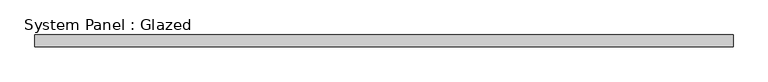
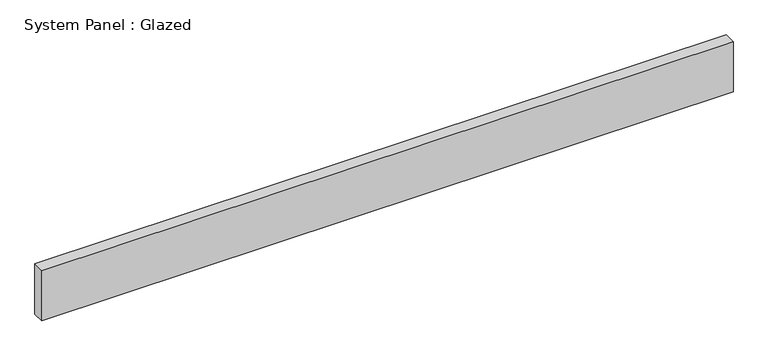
"""IFC4 building model written with IfcOpenShell, lengths in millimetres: plate geometry, System Panel : Glazed."""

from ifc_helpers import new_model, si_unit, origin, origin_with_axes, place, context, project, spatial, polyline, outline, extrude, source, transform, mapped, element, save


def system_panel_glazed_af514bd4(model_context):
    return source(origin(), model_context, "Body", "SweptSolid", [
        extrude(outline(polyline([(742.95, -44.45), (-742.95, -44.45), (-742.95, -19.05), (742.95, -19.05), (742.95, -44.45)])), origin_with_axes(), (0.0, 0.0, 1.0), 114.3),
    ])


if __name__ == "__main__":
    model = new_model("IFC4")
    model_context = context("Model", 3, world=origin())
    ifc_project = project(units=[si_unit("LENGTHUNIT", "METRE", prefix="MILLI")], contexts=[model_context])
    site = spatial("IfcSite", under=ifc_project)
    building = spatial("IfcBuilding", under=site)
    placement = place(None, origin())
    system_panel_glazed_shape = system_panel_glazed_af514bd4(model_context)
    element("IfcPlate", 1, ObjectType="System Panel : Glazed", at=placement, inside=building, context=model_context, shape_type="MappedRepresentation", body=[
        mapped(system_panel_glazed_shape, transform((0.0, 0.0, 0.0), x_axis=(1.0, 0.0, 0.0), y_axis=(0.0, 1.0, 0.0), z_axis=(0.0, 0.0, 1.0))),
    ])
    save(model, "model.ifc")
